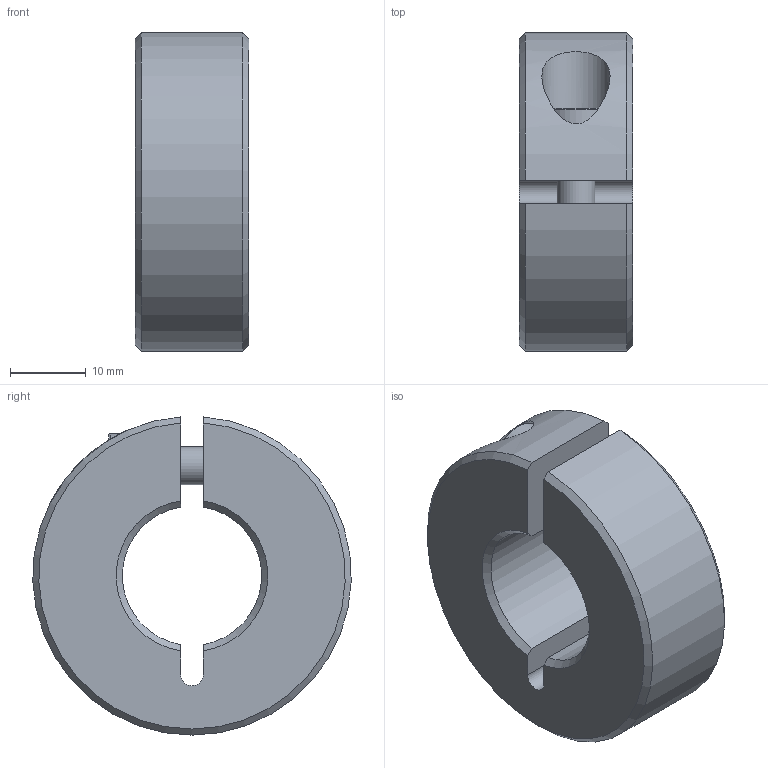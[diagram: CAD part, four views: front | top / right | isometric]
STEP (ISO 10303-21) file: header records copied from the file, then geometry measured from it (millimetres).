
FILE_DESCRIPTION( ( 'STEP AP203' ), '1' );
FILE_NAME( 'C:/Temp/Ganter_Step_05_03_2020/data/3_2/gn706_3/gn706_3_st/Threaded set collar GN 706.3-42-M20x1,5-ST.stp', '2020-03-13T05:33:35', ( 'License CC BY-ND 4.0' ), ( 'CADENAS' ), ' ', 'PARTsolutions', ' ' );
FILE_SCHEMA( ( 'CONFIG_CONTROL_DESIGN' ) );
Length unit declared in the file: millimetre
Products named in the file (1): _Threaded set collar GN 706.3-42-M20x1,5-ST
Bounding box: 15 x 41.97 x 41.95 mm (x, y, z)
Volume: 15558.3 mm3; surface area: 5875.5 mm2
Topology: 1 solids, 2 shells, 35 faces, 83 edges, 55 vertices
Faces by surface type: plane 17, cylinder 9, cone 8, torus 1
Full cylindrical faces by diameter (mm): 4.134 x1, 5 x1, 5.3 x1, 8.5 x1, 9 x1
Entity records: 1080 total; most frequent: CARTESIAN_POINT 270, DIRECTION 156, ORIENTED_EDGE 144, EDGE_CURVE 72, AXIS2_PLACEMENT_3D 61, VERTEX_POINT 53, EDGE_LOOP 48, FACE_OUTER_BOUND 41
